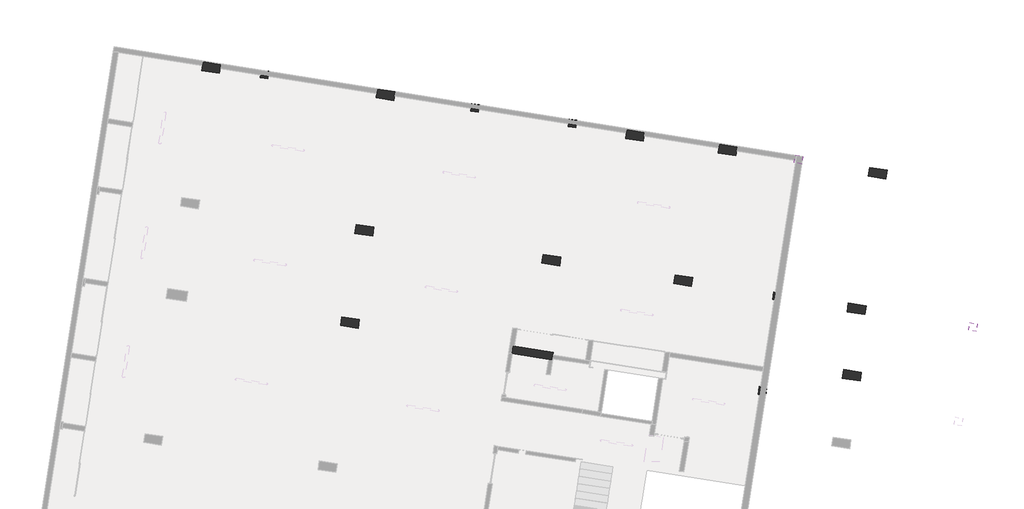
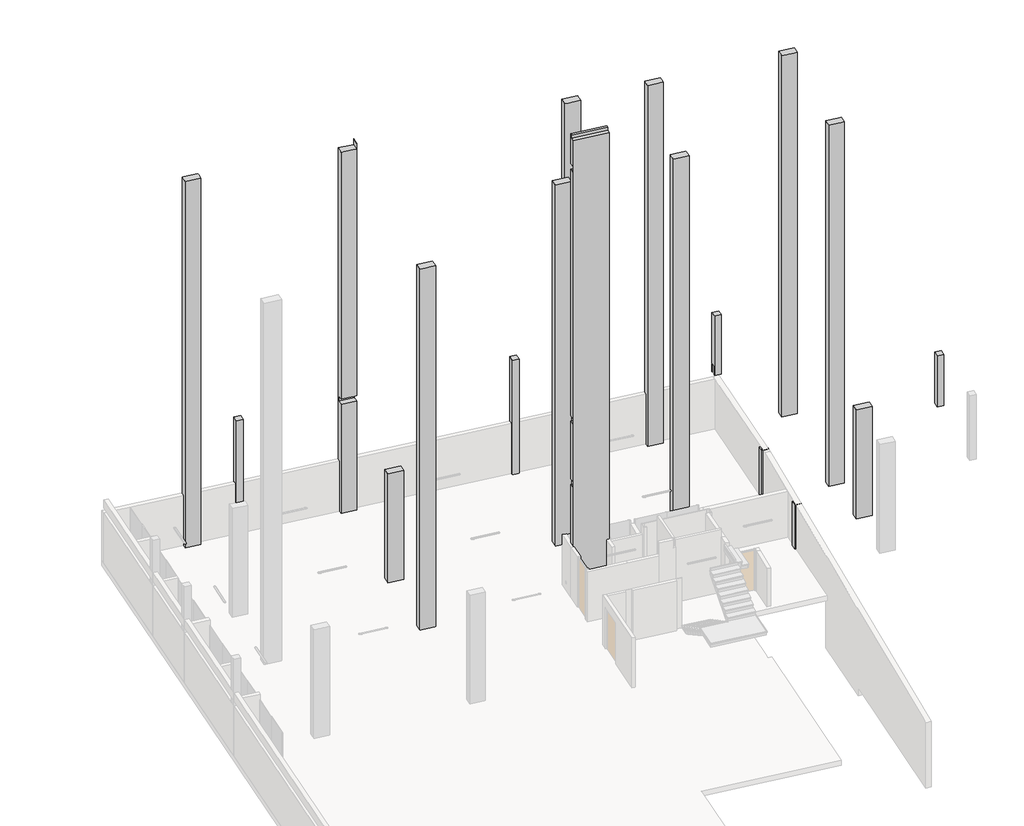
# One storey, part 3 of 5: 19 columns.
"""IFC4 building model written with IfcOpenShell, lengths in millimetres."""

from ifc_helpers import new_model, si_unit, frame, origin, place, context, project, spatial, polyline, outline, extrude, faceted_brep, element, save

model = new_model("IFC4")

# Units and contexts
model_context = context("Model", 3, world=origin())
ifc_project = project(units=[si_unit("LENGTHUNIT", "METRE", prefix="MILLI")], contexts=[model_context])

# Site, building, storey
site = spatial("IfcSite", under=ifc_project)
building = spatial("IfcBuilding", under=site)
storey = spatial("IfcBuildingStorey", under=building, Name="SÓTANO 2", Elevation=-5800.0)

# Columns
placement = place(None, origin())
element("IfcColumn", 1, ObjectType="M_Hormigón-Rectangular-Pilar : C1 (30 X 30)", at=placement, inside=storey, context=model_context, shape_type="SweptSolid", body=[
    extrude(outline(polyline([(-37326.7982118, -52188.5599155), (-37280.5952481, -51892.1391232), (-36984.1744557, -51938.3420869), (-37030.3774195, -52234.7628793), (-37326.7982118, -52188.5599155)])), frame((0.0, 0.0, -5800.0), z_axis=(0.0, 0.0, 1.0), x_axis=(1.0, 0.0, 0.0)), (0.0, 0.0, 1.0), 5800.0),
])
element("IfcColumn", 2, ObjectType="M_Hormigón-Rectangular-Pilar : C1 (30 X 30)", at=placement, inside=storey, context=model_context, shape_type="SweptSolid", body=[
    extrude(outline(polyline([(-33483.2347034, -52803.3631388), (-33437.0317396, -52506.9423464), (-33140.6109472, -52553.1453102), (-33186.813911, -52849.5661026), (-33483.2347034, -52803.3631388)])), frame((0.0, 0.0, -5800.0), z_axis=(0.0, 0.0, 1.0), x_axis=(1.0, 0.0, 0.0)), (0.0, 0.0, 1.0), 5800.0),
])
element("IfcColumn", 3, ObjectType="M_Hormigón-Rectangular-Pilar : C1 (30 X 30)", at=placement, inside=storey, context=model_context, shape_type="SweptSolid", body=[
    extrude(outline(polyline([(-45597.2675526, -50869.1441383), (-45551.0645889, -50572.7233459), (-45254.6437965, -50618.9263097), (-45300.8467603, -50915.3471021), (-45597.2675526, -50869.1441383)])), frame((0.0, 0.0, -5800.0), z_axis=(0.0, 0.0, 1.0), x_axis=(1.0, 0.0, 0.0)), (0.0, 0.0, 1.0), 5800.0),
])
element("IfcColumn", 4, ObjectType="M_Hormigón-Rectangular-Pilar : C1 (30 X 30)", at=placement, inside=storey, context=model_context, shape_type="SweptSolid", body=[
    extrude(outline(polyline([(-24600.5748856, -54221.6364428), (-24554.3719218, -53925.2156505), (-24257.9511294, -53971.4186143), (-24304.1540932, -54267.8394066), (-24600.5748856, -54221.6364428)])), frame((0.0, 0.0, -3000.0), z_axis=(0.0, 0.0, 1.0), x_axis=(1.0, 0.0, 0.0)), (0.0, 0.0, 1.0), 3000.0),
])
element("IfcColumn", 5, ObjectType="M_Hormigón-Rectangular-Pilar : C1 (30 X 30)", at=placement, inside=storey, context=model_context, shape_type="SweptSolid", body=[
    extrude(outline(polyline([(-17733.9601799, -60814.1277646), (-17687.7572161, -60517.7069722), (-17391.3364238, -60563.909936), (-17437.5393876, -60860.3307283), (-17733.9601799, -60814.1277646)])), frame((0.0, 0.0, -3000.0), z_axis=(0.0, 0.0, 1.0), x_axis=(1.0, 0.0, 0.0)), (0.0, 0.0, 1.0), 2570.0),
])
element("IfcColumn", 6, ObjectType="M_Hormigón-Rectangular-Pilar : C1 (30 X 30)", at=placement, inside=storey, context=model_context, shape_type="SweptSolid", body=[
    extrude(outline(polyline([(-25440.9007655, -59612.8503987), (-25394.6978017, -59316.4296063), (-25098.2770093, -59362.6325701), (-25144.4799731, -59659.0533625), (-25440.9007655, -59612.8503987)])), frame((0.0, 0.0, -5800.0), z_axis=(0.0, 0.0, 1.0), x_axis=(1.0, 0.0, 0.0)), (0.0, 0.0, 1.0), 2540.0),
])
element("IfcColumn", 7, ObjectType="M_Hormigón-Rectangular-Pilar : C1 (30 X 30)", at=placement, inside=storey, context=model_context, shape_type="SweptSolid", body=[
    extrude(outline(polyline([(-26020.649616, -63332.3003985), (-25974.4466522, -63035.8796061), (-25678.0258599, -63082.0825699), (-25724.2288237, -63378.5033623), (-26020.649616, -63332.3003985)])), frame((0.0, 0.0, -5800.0), z_axis=(0.0, 0.0, 1.0), x_axis=(1.0, 0.0, 0.0)), (0.0, 0.0, 1.0), 2234.5931446),
])
element("IfcColumn", 8, ObjectType="M_Hormigón-Rectangular-Pilar : C3 (35 X 70)", at=placement, inside=storey, context=model_context, shape_type="Brep", body=[
    faceted_brep([(-42440.5615496, -60631.246599, -5800.0), (-42386.6580918, -60285.4223413, -5800.0), (-41695.0095763, -60393.2292568, -5800.0), (-41748.9130341, -60739.0535146, -5800.0), (-41748.9130341, -60739.0535146, 0.0), (-41748.9130341, -60739.0535146, 2920.0), (-41748.9130341, -60739.0535146, 3200.0), (-41748.9130341, -60739.0535146, 6400.0), (-41748.9130341, -60739.0535146, 9600.0), (-41748.9130341, -60739.0535146, 12520.0), (-42401.0387767, -60637.4069943, 12520.0), (-42440.5615496, -60631.246599, 12520.0), (-42440.5615496, -60631.246599, 9600.0), (-42440.5615496, -60631.246599, 9320.0), (-42440.5615496, -60631.246599, 6400.0), (-42440.5615496, -60631.246599, 6120.0), (-42440.5615496, -60631.246599, 3200.0), (-42440.5615496, -60631.246599, 2920.0), (-42440.5615496, -60631.246599, 0.0), (-41695.0095763, -60393.2292568, 0.0), (-41695.0095763, -60393.2292568, 2920.0), (-41695.0095763, -60393.2292568, 3200.0), (-41695.0095763, -60393.2292568, 6400.0), (-41695.0095763, -60393.2292568, 9600.0), (-41695.0095763, -60393.2292568, 12520.0), (-42386.6580918, -60285.4223413, 0.0), (-42386.6580918, -60285.4223413, 3200.0), (-42386.6580918, -60285.4223413, 6120.0), (-42386.6580918, -60285.4223413, 6400.0), (-42386.6580918, -60285.4223413, 9320.0), (-42386.6580918, -60285.4223413, 9600.0), (-42386.6580918, -60285.4223413, 12520.0)], [[[0, 1, 2, 3]], [[0, 3, 4, 5, 6, 7, 8, 9, 10, 11, 12, 13, 14, 15, 16, 17, 18]], [[3, 2, 19, 20, 21, 22, 23, 24, 9, 8, 7, 6, 5, 4]], [[2, 1, 25, 26, 27, 28, 29, 30, 31, 24, 23, 22, 21, 20, 19]], [[1, 0, 18, 17, 16, 15, 14, 13, 12, 11, 31, 30, 29, 28, 27, 26, 25]], [[10, 9, 24, 31, 11]]]),
])
element("IfcColumn", 9, ObjectType="M_Hormigón-Rectangular-Pilar : C3 (35 X 70)", at=placement, inside=storey, context=model_context, shape_type="SweptSolid", body=[
    extrude(outline(polyline([(-41874.6054479, -57000.2856642), (-41820.7019921, -56654.4614061), (-41129.053476, -56762.2683178), (-41182.9569318, -57108.0925758), (-41874.6054479, -57000.2856642)])), frame((0.0, 0.0, -5800.0), z_axis=(0.0, 0.0, 1.0), x_axis=(1.0, 0.0, 0.0)), (0.0, 0.0, 1.0), 5520.0),
])
element("IfcColumn", 10, ObjectType="M_Hormigón-Rectangular-Pilar : C3 (35 X 70)", at=placement, inside=storey, context=model_context, shape_type="Brep", body=[
    faceted_brep([(-30541.4151906, -53377.2879376, -5800.0), (-31233.063706, -53269.4810221, -5800.0), (-31201.2432383, -53065.3329007, -5800.0), (-31179.1602483, -52923.6567643, -5800.0), (-30487.5117328, -53031.4636799, -5800.0), (-30509.9942441, -53175.7029943, -5800.0), (-30541.4151906, -53377.2879376, 0.0), (-30541.4151906, -53377.2879376, 3200.0), (-30541.4151906, -53377.2879376, 6400.0), (-30541.4151906, -53377.2879376, 9600.0), (-30541.4151906, -53377.2879376, 12520.0), (-31084.8533048, -53292.5825047, 12520.0), (-31233.063706, -53269.4810221, 12520.0), (-31233.063706, -53269.4810221, 9600.0), (-31233.063706, -53269.4810221, 9320.0), (-31233.063706, -53269.4810221, 6400.0), (-31233.063706, -53269.4810221, 6120.0), (-31233.063706, -53269.4810221, 3200.0), (-31233.063706, -53269.4810221, -150.0), (-30487.5117328, -53031.4636799, -3260.0), (-30487.5117328, -53031.4636799, -3000.0), (-30487.5117328, -53031.4636799, -280.0), (-30487.5117328, -53031.4636799, 0.0), (-30487.5117328, -53031.4636799, 2920.0), (-30487.5117328, -53031.4636799, 3200.0), (-30487.5117328, -53031.4636799, 6120.0), (-30487.5117328, -53031.4636799, 6400.0), (-30487.5117328, -53031.4636799, 9320.0), (-30487.5117328, -53031.4636799, 9600.0), (-30487.5117328, -53031.4636799, 12520.0), (-30510.6131725, -53179.6738051, 12520.0), (-31179.1602483, -52923.6567643, -3260.0), (-31179.1602483, -52923.6567643, 0.0), (-31179.1602483, -52923.6567643, 3200.0), (-31179.1602483, -52923.6567643, 6400.0), (-31179.1602483, -52923.6567643, 9600.0), (-31179.1602483, -52923.6567643, 12520.0)], [[[0, 1, 2, 3, 4, 5]], [[1, 0, 6, 7, 8, 9, 10, 11, 12, 13, 14, 15, 16, 17, 18]], [[0, 5, 4, 19, 20, 21, 22, 23, 24, 25, 26, 27, 28, 29, 30, 10, 9, 8, 7, 6]], [[4, 3, 31, 32, 33, 34, 35, 36, 29, 28, 27, 26, 25, 24, 23, 22, 21, 20, 19]], [[3, 2, 1, 18, 17, 16, 15, 14, 13, 12, 36, 35, 34, 33, 32, 31]], [[12, 11, 10, 30, 29, 36]]]),
])
element("IfcColumn", 11, ObjectType="M_Hormigón-Rectangular-Pilar : C3 (35 X 70)", at=placement, inside=storey, context=model_context, shape_type="Brep", body=[
    faceted_brep([(-20996.6656328, -54865.0230868, -5800.0), (-21688.3141488, -54757.2161744, -5800.0), (-21634.4106926, -54411.3919165, -5800.0), (-20942.7621766, -54519.1988288, -5800.0), (-20996.6656328, -54865.0230868, 0.0), (-20996.6656328, -54865.0230868, 2920.0), (-20996.6656328, -54865.0230868, 3200.0), (-20996.6656328, -54865.0230868, 6120.0), (-20996.6656328, -54865.0230868, 6400.0), (-20996.6656328, -54865.0230868, 9600.0), (-20996.6656328, -54865.0230868, 12520.0), (-21154.7567222, -54840.3815068, 12520.0), (-21688.3141488, -54757.2161744, 12520.0), (-21688.3141488, -54757.2161744, 9600.0), (-21688.3141488, -54757.2161744, 6400.0), (-21688.3141488, -54757.2161744, 3200.0), (-21688.3141488, -54757.2161744, 0.0), (-20942.7621766, -54519.1988288, -3000.0), (-20942.7621766, -54519.1988288, 0.0), (-20942.7621766, -54519.1988288, 3200.0), (-20942.7621766, -54519.1988288, 6400.0), (-20942.7621766, -54519.1988288, 9600.0), (-20942.7621766, -54519.1988288, 12520.0), (-21634.4106926, -54411.3919165, -3000.0), (-21634.4106926, -54411.3919165, -280.0), (-21634.4106926, -54411.3919165, 0.0), (-21634.4106926, -54411.3919165, 2920.0), (-21634.4106926, -54411.3919165, 3200.0), (-21634.4106926, -54411.3919165, 6120.0), (-21634.4106926, -54411.3919165, 6400.0), (-21634.4106926, -54411.3919165, 9600.0), (-21634.4106926, -54411.3919165, 12520.0), (-21659.0522743, -54569.4830169, 12520.0)], [[[0, 1, 2, 3]], [[1, 0, 4, 5, 6, 7, 8, 9, 10, 11, 12, 13, 14, 15, 16]], [[0, 3, 17, 18, 19, 20, 21, 22, 10, 9, 8, 7, 6, 5, 4]], [[3, 2, 23, 24, 25, 26, 27, 28, 29, 30, 31, 22, 21, 20, 19, 18, 17]], [[2, 1, 16, 15, 14, 13, 12, 32, 31, 30, 29, 28, 27, 26, 25, 24, 23]], [[12, 11, 10, 22, 31, 32]]]),
])
element("IfcColumn", 12, ObjectType="M_Hormigón-Rectangular-Pilar : C3 (35 X 70)", at=placement, inside=storey, context=model_context, shape_type="Brep", body=[
    faceted_brep([(-33825.6605823, -58279.9738612, -5800.0), (-34517.3090978, -58172.1669457, -5800.0), (-34463.4056401, -57826.3426879, -5800.0), (-33771.7571246, -57934.1496035, -5800.0), (-33825.6605823, -58279.9738612, -3000.0), (-33825.6605823, -58279.9738612, -430.0), (-33825.6605823, -58279.9738612, 0.0), (-33825.6605823, -58279.9738612, 2920.0), (-33825.6605823, -58279.9738612, 3200.0), (-33825.6605823, -58279.9738612, 6120.0), (-33825.6605823, -58279.9738612, 6400.0), (-33825.6605823, -58279.9738612, 9320.0), (-33825.6605823, -58279.9738612, 9600.0), (-33825.6605823, -58279.9738612, 12520.0), (-33934.3482056, -58263.0327746, 12520.0), (-34517.3090978, -58172.1669457, 12520.0), (-34517.3090978, -58172.1669457, 9600.0), (-34517.3090978, -58172.1669457, 6400.0), (-34517.3090978, -58172.1669457, 3200.0), (-34517.3090978, -58172.1669457, 2920.0), (-34517.3090978, -58172.1669457, 0.0), (-34517.3090978, -58172.1669457, -430.0), (-34517.3090978, -58172.1669457, -3000.0), (-33771.7571246, -57934.1496035, 0.0), (-33771.7571246, -57934.1496035, 2920.0), (-33771.7571246, -57934.1496035, 3200.0), (-33771.7571246, -57934.1496035, 6120.0), (-33771.7571246, -57934.1496035, 6400.0), (-33771.7571246, -57934.1496035, 9600.0), (-33771.7571246, -57934.1496035, 12520.0), (-33789.4682633, -58047.7775903, 12520.0), (-34463.4056401, -57826.3426879, 0.0), (-34463.4056401, -57826.3426879, 2920.0), (-34463.4056401, -57826.3426879, 3200.0), (-34463.4056401, -57826.3426879, 6400.0), (-34463.4056401, -57826.3426879, 9600.0), (-34463.4056401, -57826.3426879, 12520.0)], [[[0, 1, 2, 3]], [[1, 0, 4, 5, 6, 7, 8, 9, 10, 11, 12, 13, 14, 15, 16, 17, 18, 19, 20, 21, 22]], [[0, 3, 23, 24, 25, 26, 27, 28, 29, 30, 13, 12, 11, 10, 9, 8, 7, 6, 5, 4]], [[3, 2, 31, 32, 33, 34, 35, 36, 29, 28, 27, 26, 25, 24, 23]], [[2, 1, 22, 21, 20, 19, 18, 17, 16, 15, 36, 35, 34, 33, 32, 31]], [[15, 14, 13, 30, 29, 36]]]),
])
element("IfcColumn", 13, ObjectType="M_Hormigón-Rectangular-Pilar : C3 (35 X 70)", at=placement, inside=storey, context=model_context, shape_type="Brep", body=[
    faceted_brep([(-28638.3589177, -59088.9247563, -5800.0), (-29330.0074332, -58981.1178407, -5800.0), (-29276.1039754, -58635.293583, -5800.0), (-28584.4554599, -58743.1004985, -5800.0), (-28638.3589177, -59088.9247563, 0.0), (-28638.3589177, -59088.9247563, 3200.0), (-28638.3589177, -59088.9247563, 6400.0), (-28638.3589177, -59088.9247563, 9600.0), (-28638.3589177, -59088.9247563, 12520.0), (-29330.0074332, -58981.1178407, 12520.0), (-29330.0074332, -58981.1178407, 9600.0), (-29330.0074332, -58981.1178407, 6400.0), (-29330.0074332, -58981.1178407, 3200.0), (-29330.0074332, -58981.1178407, 2920.0), (-29330.0074332, -58981.1178407, 0.0), (-28584.4554599, -58743.1004985, 12520.0), (-29276.1039754, -58635.293583, 0.0), (-29276.1039754, -58635.293583, 2920.0), (-29276.1039754, -58635.293583, 3200.0), (-29276.1039754, -58635.293583, 6120.0), (-29276.1039754, -58635.293583, 6400.0), (-29276.1039754, -58635.293583, 9320.0), (-29276.1039754, -58635.293583, 9600.0), (-29276.1039754, -58635.293583, 12520.0), (-29078.4901003, -58666.095561, 12520.0), (-29288.3625715, -58713.9401128, 12520.0)], [[[0, 1, 2, 3]], [[1, 0, 4, 5, 6, 7, 8, 9, 10, 11, 12, 13, 14]], [[0, 3, 15, 8, 7, 6, 5, 4]], [[3, 2, 16, 17, 18, 19, 20, 21, 22, 23, 24, 15]], [[2, 1, 14, 13, 12, 11, 10, 9, 25, 23, 22, 21, 20, 19, 18, 17, 16]], [[9, 8, 15, 24, 23, 25]]]),
])
element("IfcColumn", 14, ObjectType="M_Hormigón-Rectangular-Pilar : C3 (35 X 70)", at=placement, inside=storey, context=model_context, shape_type="Brep", body=[
    faceted_brep([(-21828.3811551, -60200.9963937, -5800.0), (-22520.0296706, -60093.1894782, -5800.0), (-22466.1262128, -59747.3652205, -5800.0), (-21774.4776974, -59855.172136, -5800.0), (-21828.3811551, -60200.9963937, 0.0), (-21828.3811551, -60200.9963937, 2920.0), (-21828.3811551, -60200.9963937, 3200.0), (-21828.3811551, -60200.9963937, 6120.0), (-21828.3811551, -60200.9963937, 6400.0), (-21828.3811551, -60200.9963937, 9320.0), (-21828.3811551, -60200.9963937, 9600.0), (-21828.3811551, -60200.9963937, 12520.0), (-21976.5915509, -60177.8949119, 12520.0), (-22411.3420464, -60110.130565, 12520.0), (-22520.0296706, -60093.1894782, 12520.0), (-22520.0296706, -60093.1894782, 9600.0), (-22520.0296706, -60093.1894782, 6400.0), (-22520.0296706, -60093.1894782, 3200.0), (-22520.0296706, -60093.1894782, 0.0), (-21774.4776974, -59855.172136, 0.0), (-21774.4776974, -59855.172136, 2920.0), (-21774.4776974, -59855.172136, 3200.0), (-21774.4776974, -59855.172136, 6120.0), (-21774.4776974, -59855.172136, 6400.0), (-21774.4776974, -59855.172136, 9320.0), (-21774.4776974, -59855.172136, 9600.0), (-21774.4776974, -59855.172136, 12520.0), (-22466.1262128, -59747.3652205, 0.0), (-22466.1262128, -59747.3652205, 2920.0), (-22466.1262128, -59747.3652205, 3200.0), (-22466.1262128, -59747.3652205, 6400.0), (-22466.1262128, -59747.3652205, 9600.0), (-22466.1262128, -59747.3652205, 12520.0), (-21922.6880948, -59832.0706539, 12520.0), (-22469.1442131, -59766.7275723, 12520.0)], [[[0, 1, 2, 3]], [[1, 0, 4, 5, 6, 7, 8, 9, 10, 11, 12, 13, 14, 15, 16, 17, 18]], [[0, 3, 19, 20, 21, 22, 23, 24, 25, 26, 11, 10, 9, 8, 7, 6, 5, 4]], [[3, 2, 27, 28, 29, 30, 31, 32, 33, 26, 25, 24, 23, 22, 21, 20, 19]], [[2, 1, 18, 17, 16, 15, 14, 34, 32, 31, 30, 29, 28, 27]], [[14, 13, 12, 11, 26, 33, 32, 34]]]),
])
element("IfcColumn", 15, ObjectType="M_Hormigón-Rectangular-Pilar : C3 (35 X 70)", at=placement, inside=storey, context=model_context, shape_type="Brep", body=[
    faceted_brep([(-26900.3797526, -53944.8140992, -5800.0), (-27592.0282681, -53837.0071837, -5800.0), (-27562.3110326, -53646.3526075, -5800.0), (-27538.1248103, -53491.1829259, -5800.0), (-26846.4762948, -53598.9898415, -5800.0), (-26871.0620384, -53756.722701, -5800.0), (-26900.3797526, -53944.8140992, 3200.0), (-26900.3797526, -53944.8140992, 6120.0), (-26900.3797526, -53944.8140992, 6400.0), (-26900.3797526, -53944.8140992, 9320.0), (-26900.3797526, -53944.8140992, 9600.0), (-26900.3797526, -53944.8140992, 12520.0), (-26944.8428693, -53937.883655, 12520.0), (-27592.0282681, -53837.0071837, 12520.0), (-27592.0282681, -53837.0071837, 9600.0), (-27592.0282681, -53837.0071837, 6400.0), (-27592.0282681, -53837.0071837, 3200.0), (-27592.0282681, -53837.0071837, 2920.0), (-27592.0282681, -53837.0071837, 0.0), (-26846.4762948, -53598.9898415, -3260.0), (-26846.4762948, -53598.9898415, 0.0), (-26846.4762948, -53598.9898415, 2920.0), (-26846.4762948, -53598.9898415, 3200.0), (-26846.4762948, -53598.9898415, 6120.0), (-26846.4762948, -53598.9898415, 6400.0), (-26846.4762948, -53598.9898415, 9320.0), (-26846.4762948, -53598.9898415, 9600.0), (-26846.4762948, -53598.9898415, 12520.0), (-26869.5777725, -53747.2002106, 12520.0), (-27538.1248103, -53491.1829259, -3260.0), (-27538.1248103, -53491.1829259, 0.0), (-27538.1248103, -53491.1829259, 2920.0), (-27538.1248103, -53491.1829259, 3200.0), (-27538.1248103, -53491.1829259, 6120.0), (-27538.1248103, -53491.1829259, 6400.0), (-27538.1248103, -53491.1829259, 9320.0), (-27538.1248103, -53491.1829259, 9600.0), (-27538.1248103, -53491.1829259, 12520.0), (-27561.226288, -53639.393295, 12520.0)], [[[0, 1, 2, 3, 4, 5]], [[1, 0, 6, 7, 8, 9, 10, 11, 12, 13, 14, 15, 16, 17, 18]], [[0, 5, 4, 19, 20, 21, 22, 23, 24, 25, 26, 27, 28, 11, 10, 9, 8, 7, 6]], [[4, 3, 29, 30, 31, 32, 33, 34, 35, 36, 37, 27, 26, 25, 24, 23, 22, 21, 20, 19]], [[3, 2, 1, 18, 17, 16, 15, 14, 13, 38, 37, 36, 35, 34, 33, 32, 31, 30, 29]], [[13, 12, 11, 28, 27, 37, 38]]]),
])
element("IfcColumn", 16, ObjectType="M_Hormigón-Rectangular-Pilar : C3 (35 X 70)", at=placement, inside=storey, context=model_context, shape_type="Brep", body=[
    faceted_brep([(-47900.5620639, -50598.6568466, -5800.0), (-47870.2123516, -50403.8379899, -5800.0), (-47846.6873876, -50252.828104, -5800.0), (-47155.0299023, -50360.5774566, -5800.0), (-47178.9631418, -50514.2081179, -5800.0), (-47208.9045786, -50706.4061993, -5800.0), (-47900.5620639, -50598.6568466, 12800.0), (-47900.5620639, -50598.6568466, 9600.0), (-47900.5620639, -50598.6568466, 6400.0), (-47900.5620639, -50598.6568466, 3200.0), (-47900.5620639, -50598.6568466, -3000.0), (-47208.9045786, -50706.4061993, -3000.0), (-47208.9045786, -50706.4061993, 3200.0), (-47208.9045786, -50706.4061993, 6400.0), (-47208.9045786, -50706.4061993, 9600.0), (-47208.9045786, -50706.4061993, 12800.0), (-47317.593612, -50689.4741582, 12800.0), (-47836.3595441, -50608.658589, 12800.0), (-47155.0299023, -50360.5774566, -3260.0), (-47155.0299023, -50360.5774566, 0.0), (-47155.0299023, -50360.5774566, 2920.0), (-47155.0299023, -50360.5774566, 3200.0), (-47155.0299023, -50360.5774566, 6400.0), (-47155.0299023, -50360.5774566, 9600.0), (-47155.0299023, -50360.5774566, 12800.0), (-47176.4908628, -50498.3382284, 12800.0), (-47846.6873876, -50252.828104, -3260.0), (-47846.6873876, -50252.828104, 0.0), (-47846.6873876, -50252.828104, 2920.0), (-47846.6873876, -50252.828104, 3200.0), (-47846.6873876, -50252.828104, 6400.0), (-47846.6873876, -50252.828104, 9600.0), (-47846.6873876, -50252.828104, 12800.0), (-47782.4561258, -50262.8343238, 12800.0), (-47887.5235639, -50514.9609735, 12800.0), (-47859.6271818, -50335.890371, 12800.0)], [[[0, 1, 2, 3, 4, 5]], [[6, 7, 8, 9, 10, 0, 5, 11, 12, 13, 14, 15, 16, 17]], [[15, 14, 13, 12, 11, 5, 4, 3, 18, 19, 20, 21, 22, 23, 24, 25]], [[24, 23, 22, 21, 20, 19, 18, 3, 2, 26, 27, 28, 29, 30, 31, 32, 33]], [[32, 31, 30, 29, 28, 27, 26, 2, 1, 0, 10, 9, 8, 7, 6, 34, 35]], [[6, 17, 16, 15, 25, 24, 33, 32, 35, 34]]]),
])
element("IfcColumn", 17, ObjectType="M_Hormigón-Rectangular-Pilar : C3 (35 X 70)", at=placement, inside=storey, context=model_context, shape_type="Brep", body=[
    faceted_brep([(-40351.6146445, -51774.6640686, -5800.0), (-41043.2721298, -51666.9147159, -5800.0), (-41016.9701779, -51498.0789741, -5800.0), (-40989.3974534, -51321.0859732, -5800.0), (-40297.7399681, -51428.8353259, -5800.0), (-40325.7209681, -51608.4491021, -5800.0), (-40351.6146445, -51774.6640686, 0.0), (-40351.6146445, -51774.6640686, 3200.0), (-40351.6146445, -51774.6640686, 6120.0), (-40351.6146445, -51774.6640686, 6400.0), (-40351.6146445, -51774.6640686, 9600.0), (-40351.6146445, -51774.6640686, 12800.0), (-40356.577891, -51773.8908729, 12800.0), (-40356.577891, -51773.8908729, 12520.0), (-40509.7306236, -51750.0320871, 12520.0), (-40934.5830964, -51683.846757, 12520.0), (-41043.2721298, -51666.9147159, 12520.0), (-41043.2721298, -51666.9147159, 9600.0), (-41043.2721298, -51666.9147159, 6400.0), (-41043.2721298, -51666.9147159, 3200.0), (-41043.2721298, -51666.9147159, 0.0), (-40934.5830964, -51683.846757, 0.0), (-40509.7306236, -51750.0320871, 0.0), (-40489.9689811, -51753.11064, 0.0), (-40297.7399681, -51428.8353259, -3260.0), (-40297.7399681, -51428.8353259, 0.0), (-40297.7399681, -51428.8353259, 3200.0), (-40297.7399681, -51428.8353259, 6400.0), (-40297.7399681, -51428.8353259, 9600.0), (-40297.7399681, -51428.8353259, 12800.0), (-40322.3683874, -51586.9284386, 12800.0), (-40322.3683874, -51586.9284386, 0.0), (-40308.920587, -51500.6052119, 0.0), (-40308.920587, -51500.6052119, -280.0), (-40351.6146445, -51774.6640686, -280.0), (-40989.3974534, -51321.0859732, -3260.0), (-40989.3974534, -51321.0859732, 0.0), (-40989.3974534, -51321.0859732, 3200.0), (-40989.3974534, -51321.0859732, 6400.0), (-40989.3974534, -51321.0859732, 9600.0), (-40989.3974534, -51321.0859732, 12520.0), (-40302.674433, -51428.0666139, 12520.0), (-40302.6744331, -51428.0666139, 12800.0), (-41043.2721298, -51666.9147159, -280.0), (-41000.5691049, -51392.798296, -280.0), (-41000.5691049, -51392.798296, 0.0), (-41014.0169053, -51479.1215227, 0.0)], [[[0, 1, 2, 3, 4, 5]], [[6, 7, 8, 9, 10, 11, 12, 13, 14, 15, 16, 17, 18, 19, 20, 21, 22, 23]], [[0, 5, 4, 24, 25, 26, 27, 28, 29, 30, 11, 10, 9, 8, 7, 6, 31, 32, 33, 34]], [[4, 3, 35, 36, 37, 38, 39, 40, 41, 42, 29, 28, 27, 26, 25, 24]], [[3, 2, 1, 43, 44, 45, 46, 20, 19, 18, 17, 16, 40, 39, 38, 37, 36, 35]], [[11, 30, 29, 42, 12]], [[33, 44, 43, 34]], [[45, 32, 31, 6, 23, 22, 21, 20, 46]], [[44, 33, 32, 45]], [[1, 0, 34, 43]], [[13, 41, 40, 16, 15, 14]], [[41, 13, 12, 42]]]),
])
element("IfcColumn", 18, ObjectType="M_Hormigón-Rectangular-Pilar : C3 (35 X 70)", at=placement, inside=storey, context=model_context, shape_type="SweptSolid", body=[
    extrude(outline(polyline([(-22700.3877617, -62711.2433675), (-22646.4843059, -62365.4191094), (-21954.8357898, -62473.226021), (-22008.7392456, -62819.0502791), (-22700.3877617, -62711.2433675)])), frame((0.0, 0.0, -5800.0), z_axis=(0.0, 0.0, 1.0), x_axis=(1.0, 0.0, 0.0)), (0.0, 0.0, 1.0), 5520.0),
])
element("IfcColumn", 19, ObjectType="M_Hormigón-Rectangular-Pilar : C5 (30 X 160)", at=placement, inside=storey, context=model_context, shape_type="Brep", body=[
    faceted_brep([(-34123.7781215, -61978.1833005, -5800.0), (-34257.1674764, -61957.3919671, -5800.0), (-35679.9872879, -61735.6177395, -5800.0), (-35704.689014, -61731.7674936, -5800.0), (-35658.4860502, -61435.3467012, -5800.0), (-35604.1422448, -61443.8172435, -5800.0), (-34077.5751577, -61681.7625082, -5800.0), (-34094.5162012, -61790.4498548, -5800.0), (-34117.6176831, -61938.6602509, -5800.0), (-34123.7781215, -61978.1833005, -3260.0), (-34123.7781215, -61978.1833005, -3000.0), (-34123.7781215, -61978.1833005, -430.0), (-34123.7781215, -61978.1833005, 2920.0), (-34128.7184546, -61977.4132532, 2920.0), (-34128.7184546, -61977.4132532, 3200.0), (-34123.7781215, -61978.1833005, 3200.0), (-34123.7781215, -61978.1833005, 17350.0), (-35704.689014, -61731.7674936, 17350.0), (-35704.689014, -61731.7674936, -430.0), (-35704.689014, -61731.7674936, -3000.0), (-35704.689014, -61731.7674936, -3260.0), (-34077.5751577, -61681.7625082, 15720.0), (-34092.9760995, -61780.5691431, 15720.0), (-34116.0775817, -61928.779541, 15720.0), (-34116.0775817, -61928.779541, 16000.0), (-34077.5751577, -61681.7625082, 16000.0), (-34077.5751577, -61681.7625082, 17500.0), (-34094.5162012, -61790.4498548, 17500.0), (-34094.5162012, -61790.4498548, 17350.0), (-34077.5751577, -61681.7625082, 3200.0), (-35658.4860502, -61435.3467012, 17500.0), (-35658.4860502, -61435.3467012, 16000.0), (-35675.4270937, -61544.0340478, 17350.0), (-35675.4270937, -61544.0340478, 17500.0), (-35696.9884751, -61682.3637398, 16000.0), (-35696.9884751, -61682.3637398, 15720.0), (-35695.4483777, -61672.483056, 15720.0), (-35673.8869946, -61534.1533529, 15720.0), (-35658.4860502, -61435.3467012, 15720.0), (-35658.4860502, -61435.3467012, 3200.0), (-35696.9884751, -61682.3637398, 3200.0), (-35696.9884751, -61682.3637398, 2920.0), (-35673.886997, -61534.1533678, 2920.0), (-35658.4860502, -61435.3467012, 2920.0), (-35658.4860502, -61435.3467012, 0.0), (-35673.886997, -61534.1533678, 0.0), (-35696.9884789, -61682.363764, 0.0), (-35696.9884789, -61682.363764, -280.0), (-35658.4860502, -61435.3467012, -280.0), (-35658.4860502, -61435.3467012, -430.0), (-35658.4860502, -61435.3467012, -3000.0), (-35658.4860502, -61435.3467012, -3260.0), (-34121.0179148, -61928.0094938, 2920.0), (-34077.5751577, -61681.7625082, 2920.0), (-34121.0179148, -61928.0094938, 3200.0), (-34077.5751577, -61681.7625082, -3000.0), (-34077.5751577, -61681.7625082, -430.0), (-34077.5751577, -61681.7625082, -280.0), (-34116.0775863, -61928.7795707, -280.0), (-34116.0775863, -61928.7795707, 0.0), (-34077.5751577, -61681.7625082, 0.0)], [[[0, 1, 2, 3, 4, 5, 6, 7, 8]], [[3, 2, 1, 0, 9, 10, 11, 12, 13, 14, 15, 16, 17, 18, 19, 20]], [[21, 22, 23, 24, 25, 26, 27, 28, 16, 15, 29]], [[30, 26, 25, 31]], [[4, 3, 20, 19, 18, 17, 32, 33, 30, 31, 34, 35, 36, 37, 38, 39, 40, 41, 42, 43, 44, 45, 46, 47, 48, 49, 50, 51]], [[26, 30, 33, 27]], [[35, 23, 22, 21, 38, 37, 36]], [[24, 34, 31, 25]], [[34, 24, 23, 35]], [[38, 21, 29, 39]], [[17, 16, 28, 32]], [[28, 27, 33, 32]], [[41, 52, 13, 12, 53, 43, 42]], [[54, 40, 39, 29, 15, 14]], [[52, 54, 14, 13]], [[54, 52, 41, 40]], [[0, 8, 7, 6, 55, 56, 57, 58, 59, 60, 53, 12, 11, 10, 9]], [[43, 53, 60, 44]], [[47, 58, 57, 48]], [[59, 46, 45, 44, 60]], [[58, 47, 46, 59]], [[6, 5, 4, 51, 50, 49, 48, 57, 56, 55]]]),
])

save(model, "model.ifc")
